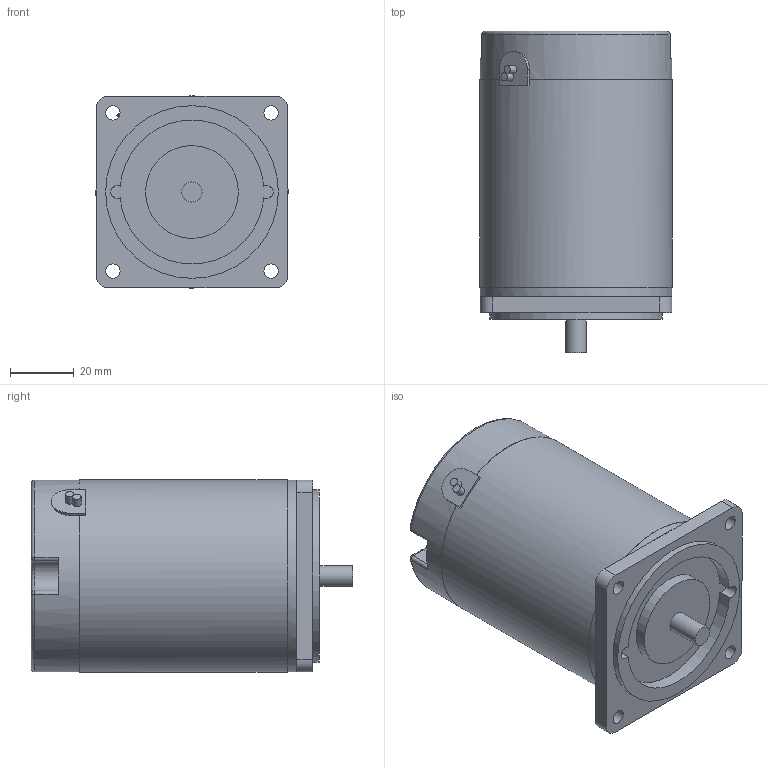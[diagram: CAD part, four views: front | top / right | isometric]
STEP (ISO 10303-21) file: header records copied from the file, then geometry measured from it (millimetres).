
FILE_DESCRIPTION((''),'2;1');
FILE_NAME('E:\2공장-도면\3D\표준형 3D(민규)\step file\K6DG15N.stp','2014-11-06T14:02:48',('AHN'),(''),'Autodesk Inventor 2012','Autodesk Inventor 2012','');
FILE_SCHEMA(('CONFIG_CONTROL_DESIGN'));
Length unit declared in the file: millimetre
Products named in the file (1): K6DG15N
Bounding box: 60.09 x 100.5 x 60.09 mm (x, y, z)
Volume: 251848.8 mm3; surface area: 25946.1 mm2
Topology: 1 solids, 1 shells, 67 faces, 155 edges, 94 vertices
Faces by surface type: cylinder 31, plane 28, torus 4, sphere 4
Full cylindrical faces by diameter (mm): 2.6 x2, 4.5 x4, 6.34 x1, 29 x1, 54 x1, 60 x2, 60.1 x1
Entity records: 1869 total; most frequent: DIRECTION 351, CARTESIAN_POINT 315, ORIENTED_EDGE 280, AXIS2_PLACEMENT_3D 144, EDGE_CURVE 140, EDGE_LOOP 91, VERTEX_POINT 90, CIRCLE 76
